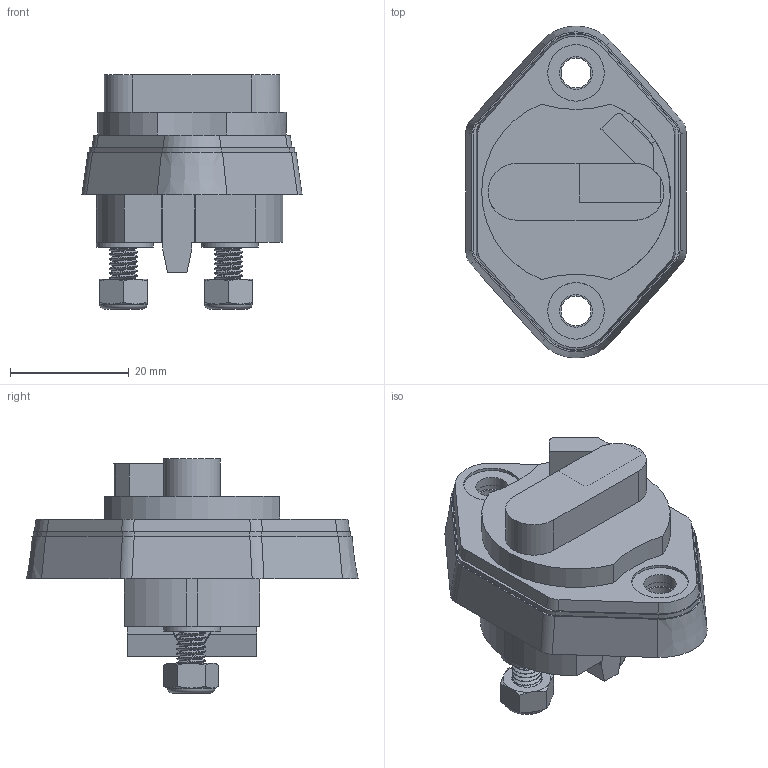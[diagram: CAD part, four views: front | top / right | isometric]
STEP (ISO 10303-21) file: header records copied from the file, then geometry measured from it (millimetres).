
FILE_DESCRIPTION(/* description */ (''),/* implementation_level */ '2;1');
FILE_NAME(/* name */ '642.stp',/* time_stamp */ '2023-10-18T08:15:51-07:00',/* author */ ('RaniahC'),/* organization */ (''),/* preprocessor_version */ 'ST-DEVELOPER v19.2',/* originating_system */ 'Autodesk Inventor 2024',/* authorisation */ '');
FILE_SCHEMA (('AUTOMOTIVE_DESIGN { 1 0 10303 214 3 1 1 }'));
Length unit declared in the file: millimetre
Products named in the file (10): 642 Assembly; updated bottom; 90322A637_High-Strength Steel Threaded Rod; 90576A104_Medium-Strength Steel Nylon-Insert Locknut; Part20; Bottom Base; Rubber; Updated Upper base; Raised Base; Button Chasis (no button)
Assembly tree (11 placements, depth 3):
  642 Assembly
    updated bottom
      90322A637_High-Strength Steel Threaded Rod  x2
      90576A104_Medium-Strength Steel Nylon-Insert Locknut  x2
      Part20
    Bottom Base
    Rubber
    Updated Upper base
    Raised Base
    Button Chasis (no button)
Bounding box: 37.01 x 55.81 x 39.35 mm (x, y, z)
Volume: 24752.9 mm3; surface area: 16973.2 mm2
Topology: 12 solids, 12 shells, 288 faces, 738 edges, 482 vertices
Faces by surface type: cylinder 120, plane 112, cone 34, bspline 16, torus 6
Full cylindrical faces by diameter (mm): 3.795 x24, 3.961 x8, 4.826 x22, 5 x8, 5.029 x2, 5.147 x2, 5.5 x4, 8.53 x2, 9.5 x2, 9.52 x2
Entity records: 11625 total; most frequent: CARTESIAN_POINT 6137, ORIENTED_EDGE 1094, DIRECTION 1004, EDGE_CURVE 547, AXIS2_PLACEMENT_3D 362, VERTEX_POINT 359, LINE 280, VECTOR 280
